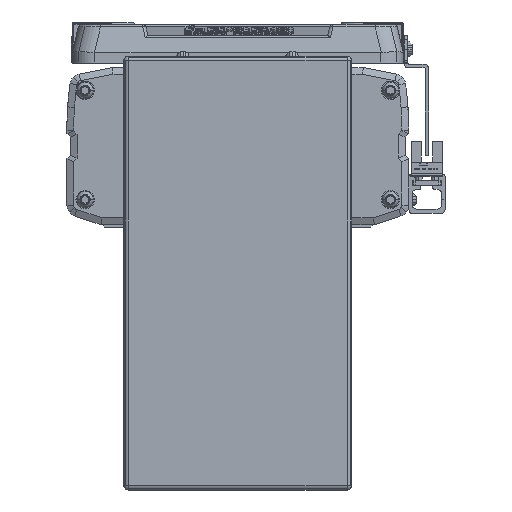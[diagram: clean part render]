
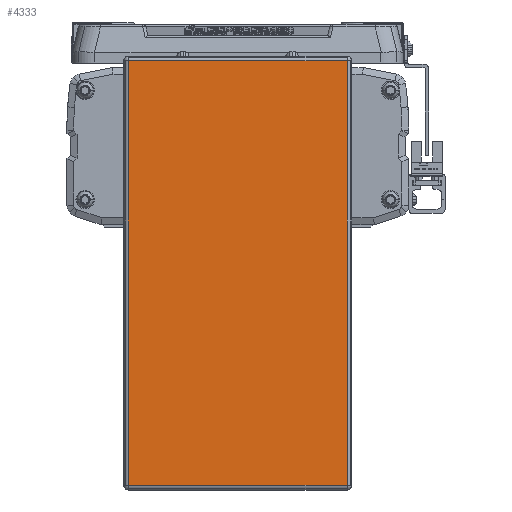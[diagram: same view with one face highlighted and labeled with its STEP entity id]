
A CAD part, left-side view. The second image highlights one B-rep face of the part: STEP entity #4333.
In plain terms, the highlighted planar face has unit normal (-1, 0, 0).
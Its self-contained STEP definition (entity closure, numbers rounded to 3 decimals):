
#4333=ADVANCED_FACE('',(#10632),#10633,.T.);
#10632=FACE_OUTER_BOUND('',#20027,.T.);
#10633=PLANE('',#20028);
#20027=EDGE_LOOP('',(#32510,#32511,#32512,#32513));
#20028=AXIS2_PLACEMENT_3D('',#32514,#32515,#32516);
#32510=ORIENTED_EDGE('',*,*,#55268,.F.);
#32511=ORIENTED_EDGE('',*,*,#55269,.F.);
#32512=ORIENTED_EDGE('',*,*,#55270,.F.);
#32513=ORIENTED_EDGE('',*,*,#55271,.F.);
#32514=CARTESIAN_POINT('',(-45.,0.,-64.2));
#32515=DIRECTION('',(-1.0,0.,0.));
#32516=DIRECTION('',(0.,1.0,0.));
#55268=EDGE_CURVE('',#67089,#67090,#67091,.T.);
#55269=EDGE_CURVE('',#67092,#67089,#67093,.T.);
#55270=EDGE_CURVE('',#62636,#67092,#67094,.T.);
#55271=EDGE_CURVE('',#67090,#62636,#67095,.T.);
#62636=VERTEX_POINT('',#77024);
#67089=VERTEX_POINT('',#83179);
#67090=VERTEX_POINT('',#83180);
#67091=LINE('',#83181,#83182);
#67092=VERTEX_POINT('',#83183);
#67093=LINE('',#83184,#83185);
#67094=LINE('',#83186,#83187);
#67095=LINE('',#83188,#83189);
#77024=CARTESIAN_POINT('',(-45.,-48.,-157.4));
#83179=CARTESIAN_POINT('',(-45.,48.,29.));
#83180=CARTESIAN_POINT('',(-45.,-48.,29.));
#83181=CARTESIAN_POINT('',(-45.,0.,29.));
#83182=VECTOR('',#100400,10.0);
#83183=CARTESIAN_POINT('',(-45.,48.,-157.4));
#83184=CARTESIAN_POINT('',(-45.,48.,-64.2));
#83185=VECTOR('',#100401,10.0);
#83186=CARTESIAN_POINT('',(-45.,0.,-157.4));
#83187=VECTOR('',#100402,10.0);
#83188=CARTESIAN_POINT('',(-45.,-48.,-64.2));
#83189=VECTOR('',#100403,10.0);
#100400=DIRECTION('',(0.0,-1.0,0.));
#100401=DIRECTION('',(0.,0.,1.0));
#100402=DIRECTION('',(0.0,1.0,0.));
#100403=DIRECTION('',(0.,0.,-1.0));
